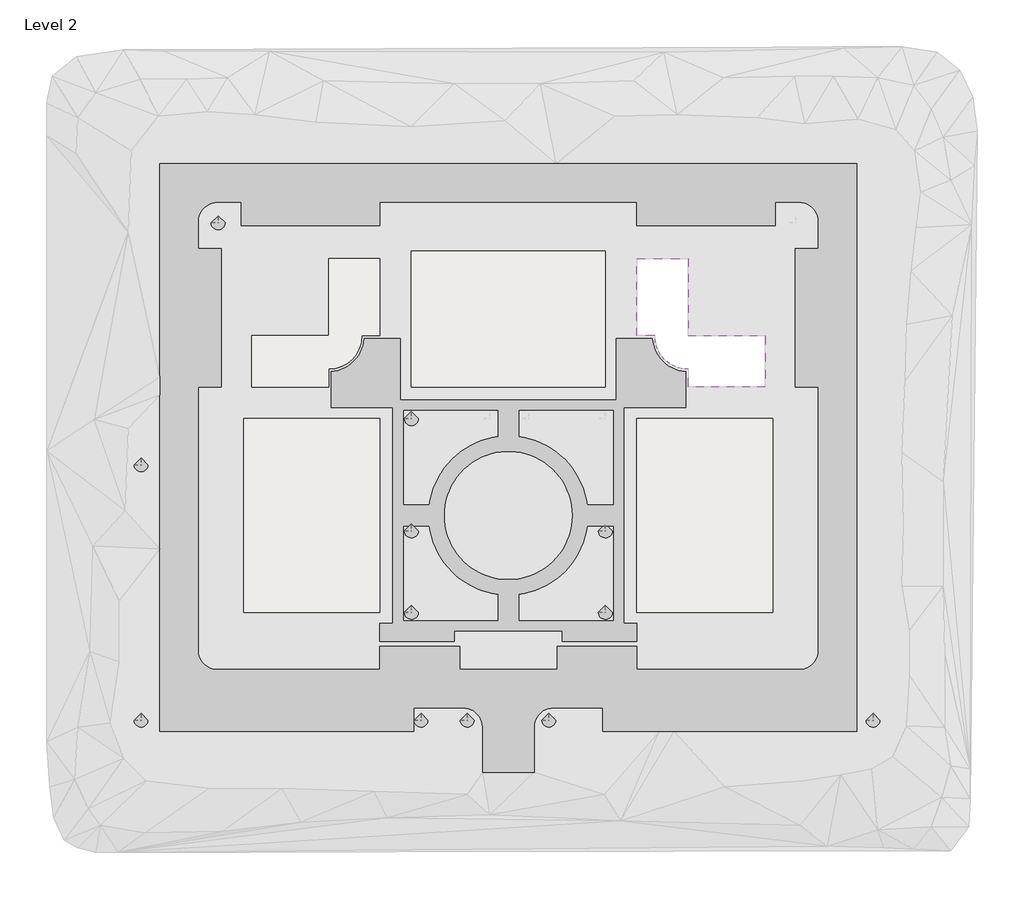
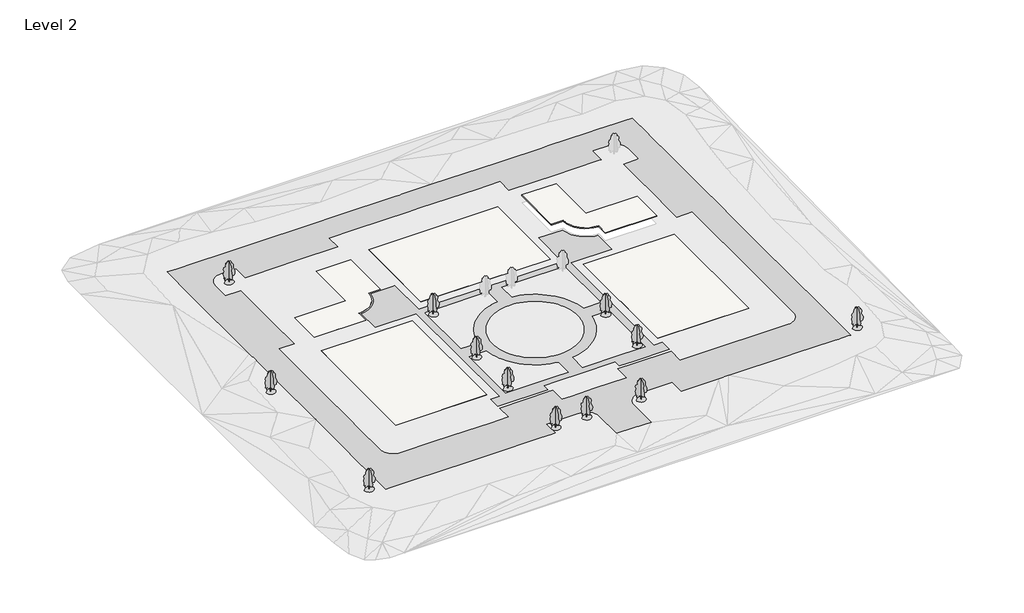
# One storey, part 1 of 2: 12 geographic elements, 5 slabs, 2 proxies.
"""IFC4 building model written with IfcOpenShell, lengths in millimetres."""

from ifc_helpers import new_model, si_unit, point, frame, frame_2d, origin, place, context, project, spatial, polyline, circle_curve, trimmed, segment, composite_curve, outline, extrude, triangles, transform, mapped, element, save
from components import rpc_tree_deciduous_red_ash_25_14781bec

model = new_model("IFC4")

# Units and contexts
model_context = context("Model", 3, world=origin())
ifc_project = project(units=[si_unit("LENGTHUNIT", "METRE", prefix="MILLI")], contexts=[model_context])

# Site, building, storey
site = spatial("IfcSite", under=ifc_project)
building = spatial("IfcBuilding", under=site)
storey = spatial("IfcBuildingStorey", under=building, Name="Level 2", Elevation=3047.9999999)

# Proxies
placement = place(None, origin())
element("IfcBuildingElementProxy", 1, Name="Building Element Proxy", at=placement, inside=storey, context=model_context, shape_type="Tessellation", body=[
    triangles([(-96458.3541504, -141259.5265137, 3048.0), (-96458.3541504, -151927.5265137, 3048.0), (-90362.3541504, -151927.5265137, 3048.0), (-84266.3541504, -151927.5265137, 3048.0), (-84266.3541504, -141259.5265137, 3048.0), (-84219.8174561, -140608.8592529, 3048.0), (-84081.1561523, -139971.4376953, 3048.0), (-83853.1979736, -139360.2470947, 3048.0), (-83540.5658936, -138787.7145996, 3048.0), (-83149.640918, -138265.4953125, 3048.0), (-82688.3853516, -137804.2304443, 3048.0), (-82166.1660645, -137413.3147705, 3048.0), (-81593.6335693, -137100.6826904, 3048.0), (-80982.4429688, -136872.7245117, 3048.0), (-80345.0214111, -136734.0539063, 3048.0), (-79694.3541504, -136687.5265137, 3048.0), (-70630.3399658, -136687.5265137, 3048.0), (-67959.5588013, -136687.5265137, 3048.0), (-67959.5588013, -142173.9265137, 3048.0), (-54593.6723145, -142173.9265137, 3048.0), (-50988.4086548, -142173.9265137, 3048.0), (-30015.5818359, -142173.9265137, 3048.0), (-27380.2333923, -142173.9265137, 3048.0), (-14368.7717834, -142173.9265137, 3048.0), (-12021.3371613, -142173.9265137, 3048.0), (-8520.228772, -142173.9265137, 3048.0), (-7609.1582199, -142173.9265137, 3048.0), (-7609.1582199, -141262.8472412, 3048.0), (-7609.1582199, -135897.4445068, 3048.0), (-7609.1582199, -128757.108252, 3048.0), (-7609.1582199, -119744.5513916, 3048.0), (-7609.1582199, -109311.1696289, 3048.0), (-7609.1582199, -103111.0178467, 3048.0), (-7609.1582199, -88141.7269043, 3048.0), (-7609.1582199, -67102.3320557, 3048.0), (-7609.1582199, -63543.7213623, 3048.0), (-7609.1582199, -48692.6557617, 3048.0), (-7609.1582199, -45786.2285156, 3048.0), (-7609.1582199, -34925.2565735, 3048.0), (-7609.1582199, -29394.9894836, 3048.0), (-7609.1582199, -20175.2708496, 3048.0), (-7609.1582199, -15160.5374084, 3048.0), (-7609.1582199, -9469.011557, 3048.0), (-7609.1582199, -7452.3218628, 3048.0), (-9769.8966797, -7452.3218628, 3048.0), (-13137.2725342, -7452.3218628, 3048.0), (-20332.1054626, -7452.3218628, 3048.0), (-23395.2487244, -7452.3218628, 3048.0), (-37615.0575073, -7452.3218628, 3048.0), (-40375.0099731, -7452.3218628, 3048.0), (-52788.1732178, -7452.3218628, 3048.0), (-55510.2210205, -7452.3218628, 3048.0), (-79028.6831543, -7452.3218628, 3048.0), (-89744.5965088, -7452.3218628, 3048.0), (-90362.3541504, -7452.3218628, 3048.0), (-91818.4420166, -7452.3218628, 3048.0), (-112747.4808105, -7452.3218628, 3048.0), (-121728.1977539, -7452.3218628, 3048.0), (-142112.3953857, -7452.3218628, 3048.0), (-152868.4644287, -7452.3218628, 3048.0), (-163060.4655762, -7452.3218628, 3048.0), (-169916.8098633, -7452.3218628, 3048.0), (-173115.5541504, -7452.3218628, 3048.0), (-173115.5541504, -12340.9792786, 3048.0), (-173115.5541504, -16797.6432953, 3048.0), (-173115.5541504, -19343.470459, 3048.0), (-173115.5541504, -58140.023291, 3048.0), (-173115.5541504, -62355.6543457, 3048.0), (-173115.5541504, -78335.3859375, 3048.0), (-173115.5541504, -96485.831543, 3048.0), (-173115.5541504, -98940.6863525, 3048.0), (-173115.5541504, -118406.8004883, 3048.0), (-173115.5541504, -122301.5302002, 3048.0), (-173115.5541504, -133177.6942383, 3048.0), (-173115.5541504, -139265.5924072, 3048.0), (-173115.5541504, -142173.9265137, 3048.0), (-171062.6189941, -142173.9265137, 3048.0), (-161579.2164551, -142173.9265137, 3048.0), (-155924.3616211, -142173.9265137, 3048.0), (-141364.1619873, -142173.9265137, 3048.0), (-134914.7603027, -142173.9265137, 3048.0), (-118098.4844238, -142173.9265137, 3048.0), (-113948.1331055, -142173.9265137, 3048.0), (-112765.1541504, -142173.9265137, 3048.0), (-112765.1541504, -136687.5265137, 3048.0), (-101809.9809814, -136687.5265137, 3048.0), (-101030.3541504, -136687.5265137, 3048.0), (-100379.6961914, -136734.0539063, 3048.0), (-99742.2746338, -136872.7245117, 3048.0), (-99131.0840332, -137100.6826904, 3048.0), (-98978.0329102, -137184.2496826, 3048.0), (-98558.5515381, -137413.3147705, 3048.0), (-98036.332251, -137804.2304443, 3048.0), (-97575.0673828, -138265.4953125, 3048.0), (-97184.1424072, -138787.7145996, 3048.0), (-96871.5196289, -139360.2470947, 3048.0), (-96643.5521484, -139971.4376953, 3048.0), (-96504.8908447, -140608.8592529, 3048.0), (-120842.3541504, -16596.3218628, 3048.0), (-111973.5931641, -16596.3218628, 3048.0), (-92323.0716797, -16596.3218628, 3048.0), (-88392.1767334, -16596.3218628, 3048.0), (-68080.4816528, -16596.3218628, 3048.0), (-59882.3588013, -16596.3218628, 3048.0), (-59882.3588013, -22082.7218628, 3048.0), (-43016.1185303, -22082.7218628, 3048.0), (-36760.488739, -22082.7218628, 3048.0), (-27869.6965393, -22082.7218628, 3048.0), (-26963.9588013, -22082.7218628, 3048.0), (-26963.9588013, -17204.3033569, 3048.0), (-26963.9588013, -16596.3218628, 3048.0), (-21325.1588013, -16596.3218628, 3048.0), (-20674.493866, -16642.8585571, 3048.0), (-20037.0769592, -16781.5198608, 3048.0), (-19425.880545, -17009.4838531, 3048.0), (-18853.3480499, -17322.1112823, 3048.0), (-18331.1345764, -17713.0350952, 3048.0), (-17869.870871, -18174.2988007, 3048.0), (-17478.9470581, -18696.5122742, 3048.0), (-17166.3207916, -19269.0447693, 3048.0), (-16938.3556366, -19880.2400208, 3048.0), (-16799.6943329, -20517.6592529, 3048.0), (-16753.1576385, -21168.3218628, 3048.0), (-16753.1576385, -26553.1513184, 3048.0), (-16753.1576385, -27569.1218628, 3048.0), (-22239.5588013, -27569.1218628, 3048.0), (-22239.5588013, -28669.615155, 3048.0), (-22239.5588013, -35337.7267456, 3048.0), (-22239.5588013, -46411.753125, 3048.0), (-22239.5588013, -54882.9383789, 3048.0), (-22239.5588013, -60487.5218628, 3048.0), (-16753.1576385, -60487.5218628, 3048.0), (-16753.1576385, -98657.3269043, 3048.0), (-16753.1576385, -111345.1664063, 3048.0), (-16753.1576385, -122722.3696289, 3048.0), (-16753.1576385, -122971.5265137, 3048.0), (-16799.6943329, -123622.1844727, 3048.0), (-16938.3556366, -124259.6060303, 3048.0), (-17166.3207916, -124870.7966309, 3048.0), (-17478.9470581, -125443.329126, 3048.0), (-17869.870871, -125965.5484131, 3048.0), (-18331.1345764, -126426.8132813, 3048.0), (-18853.3480499, -126817.7289551, 3048.0), (-19425.880545, -127130.3610352, 3048.0), (-19872.0754028, -127296.7787842, 3048.0), (-20037.0769592, -127358.3192139, 3048.0), (-20674.493866, -127496.9898193, 3048.0), (-21325.1588013, -127543.5265137, 3048.0), (-34741.3910522, -127543.5265137, 3048.0), (-41871.5883911, -127543.5265137, 3048.0), (-59882.3588013, -127543.5265137, 3048.0), (-59882.3588013, -122057.1265137, 3048.0), (-72794.2171875, -122057.1265137, 3048.0), (-78779.9541504, -122057.1265137, 3048.0), (-78779.9541504, -127543.5265137, 3048.0), (-90362.3541504, -127543.5265137, 3048.0), (-98445.9909668, -127543.5265137, 3048.0), (-101944.7541504, -127543.5265137, 3048.0), (-101944.7541504, -122057.1265137, 3048.0), (-103048.1844727, -122057.1265137, 3048.0), (-120842.3541504, -122057.1265137, 3048.0), (-120842.3541504, -127543.5265137, 3048.0), (-127508.0124023, -127543.5265137, 3048.0), (-135716.2462646, -127543.5265137, 3048.0), (-147842.1479736, -127543.5265137, 3048.0), (-159399.5541504, -127543.5265137, 3048.0), (-160050.2307129, -127496.9898193, 3048.0), (-160687.6429688, -127358.3192139, 3048.0), (-161298.8428711, -127130.3610352, 3048.0), (-161871.3660645, -126817.7289551, 3048.0), (-162393.5853516, -126426.8132813, 3048.0), (-162854.840918, -125965.5484131, 3048.0), (-163245.7751953, -125443.329126, 3048.0), (-163558.3886719, -124870.7966309, 3048.0), (-163786.3561523, -124259.6060303, 3048.0), (-163925.0267578, -123622.1844727, 3048.0), (-163971.5541504, -122971.5265137, 3048.0), (-163971.5541504, -109289.2825928, 3048.0), (-163971.5541504, -104079.330835, 3048.0), (-163971.5541504, -88201.2767578, 3048.0), (-163971.5541504, -60487.5218628, 3048.0), (-158485.1541504, -60487.5218628, 3048.0), (-158485.1541504, -46724.2270752, 3048.0), (-158485.1541504, -34220.483313, 3048.0), (-158485.1541504, -27569.1218628, 3048.0), (-163971.5541504, -27569.1218628, 3048.0), (-163971.5541504, -21168.3218628, 3048.0), (-163925.0267578, -20517.6592529, 3048.0), (-163786.3561523, -19880.2400208, 3048.0), (-163558.3886719, -19269.0447693, 3048.0), (-163245.7751953, -18696.5122742, 3048.0), (-162854.840918, -18174.2988007, 3048.0), (-162393.5853516, -17713.0350952, 3048.0), (-161871.3660645, -17322.1112823, 3048.0), (-161298.8428711, -17009.4838531, 3048.0), (-160687.6429688, -16781.5198608, 3048.0), (-160050.2307129, -16642.8585571, 3048.0), (-159399.5541504, -16596.3218628, 3048.0), (-153760.7541504, -16596.3218628, 3048.0), (-153760.7541504, -22082.7218628, 3048.0), (-151061.086377, -22082.7218628, 3048.0), (-135421.6781982, -22082.7218628, 3048.0), (-120842.3541504, -22082.7218628, 3048.0)], [[75, 76, 77], [75, 77, 78], [78, 74, 75], [169, 74, 78], [167, 78, 166], [78, 79, 166], [165, 79, 80], [164, 80, 81], [164, 165, 80], [163, 164, 81], [163, 82, 162], [79, 165, 166], [174, 175, 73], [174, 73, 74], [73, 176, 177], [176, 73, 175], [72, 73, 177], [74, 173, 174], [167, 168, 78], [173, 74, 172], [171, 74, 170], [74, 171, 172], [168, 169, 78], [74, 169, 170], [163, 81, 82], [85, 83, 84], [85, 82, 83], [9, 156, 95], [156, 94, 95], [1, 2, 3], [5, 3, 4], [1, 3, 5], [6, 98, 1], [7, 97, 98], [97, 8, 96], [95, 96, 9], [85, 86, 158], [162, 160, 161], [158, 86, 87], [158, 87, 88], [158, 160, 162], [88, 157, 158], [162, 85, 158], [92, 93, 157], [91, 92, 157], [89, 90, 157], [157, 90, 91], [93, 156, 157], [89, 157, 88], [93, 94, 156], [85, 162, 82], [71, 72, 178], [70, 71, 179], [68, 69, 181], [67, 68, 181], [70, 180, 69], [179, 180, 70], [69, 180, 181], [67, 186, 66], [186, 67, 183], [183, 67, 181], [178, 179, 71], [177, 178, 72], [66, 186, 187], [189, 65, 66], [188, 66, 187], [64, 65, 192], [63, 64, 62], [193, 62, 64], [188, 189, 66], [192, 65, 191], [191, 65, 190], [62, 193, 61], [64, 192, 193], [193, 194, 61], [61, 194, 195], [190, 65, 189], [186, 184, 185], [198, 61, 197], [197, 61, 196], [186, 183, 184], [159, 160, 158], [59, 201, 202], [199, 200, 201], [181, 182, 183], [99, 202, 203], [99, 58, 202], [201, 59, 199], [198, 199, 60], [59, 60, 199], [59, 202, 58], [99, 57, 58], [60, 61, 198], [56, 100, 101], [55, 101, 102], [56, 57, 100], [54, 55, 102], [56, 101, 55], [102, 53, 54], [100, 57, 99], [196, 61, 195], [6, 1, 5], [97, 7, 8], [156, 10, 11], [10, 156, 9], [9, 96, 8], [20, 18, 19], [21, 151, 20], [13, 156, 12], [21, 22, 150], [12, 156, 11], [14, 15, 155], [13, 14, 155], [155, 16, 17], [154, 155, 153], [155, 15, 16], [156, 13, 155], [153, 17, 18], [150, 22, 149], [21, 150, 151], [152, 153, 151], [151, 18, 20], [153, 18, 151], [17, 153, 155], [22, 23, 149], [148, 24, 147], [146, 147, 24], [24, 145, 146], [24, 144, 145], [148, 23, 24], [28, 25, 26], [28, 26, 27], [29, 144, 24], [143, 144, 29], [29, 24, 25], [25, 28, 29], [142, 29, 30], [143, 29, 142], [142, 30, 141], [140, 30, 139], [139, 30, 138], [30, 140, 141], [136, 137, 31], [135, 136, 31], [33, 134, 32], [31, 32, 134], [134, 135, 31], [138, 30, 137], [137, 30, 31], [148, 149, 23], [134, 33, 133], [50, 106, 107], [104, 105, 106], [108, 109, 110], [108, 110, 107], [110, 111, 107], [128, 129, 38], [125, 127, 128], [127, 125, 126], [37, 129, 130], [52, 53, 103], [52, 103, 104], [51, 52, 104], [51, 104, 106], [50, 51, 106], [107, 111, 49], [113, 114, 47], [49, 111, 48], [112, 47, 48], [47, 112, 113], [111, 112, 48], [114, 115, 47], [49, 50, 107], [130, 131, 132], [53, 102, 103], [39, 128, 38], [124, 125, 40], [130, 132, 37], [124, 41, 123], [41, 122, 123], [132, 34, 35], [35, 36, 132], [38, 129, 37], [39, 40, 125], [39, 125, 128], [36, 37, 132], [133, 33, 34], [40, 41, 124], [119, 120, 42], [118, 119, 42], [116, 117, 46], [115, 116, 46], [118, 46, 117], [41, 42, 120], [41, 121, 122], [42, 46, 118], [45, 46, 43], [43, 44, 45], [46, 42, 43], [120, 121, 41], [115, 46, 47], [133, 34, 132], [7, 98, 6]], closed=False),
])
element("IfcBuildingElementProxy", 2, Name="Building Element Proxy", at=placement, inside=storey, context=model_context, shape_type="Tessellation", body=[
    triangles([(-115965.5541504, -63535.5218628, 3048.0), (-115965.5541504, -48905.1218628, 3048.0), (-124521.7574707, -48905.1218628, 3048.0), (-124628.057959, -49768.622644, 3048.0), (-124821.7112549, -50616.8173828, 3048.0), (-125100.7174805, -51440.8880127, 3048.0), (-125462.1744873, -52232.2676147, 3048.0), (-125902.3150635, -52982.7380859, 3048.0), (-126416.5813477, -53684.4999023, 3048.0), (-126999.6248291, -54330.255835, 3048.0), (-127645.3807617, -54913.2946655, 3048.0), (-128347.1425781, -55427.5609497, 3048.0), (-129097.6083984, -55867.7061768, 3048.0), (-129888.9926514, -56229.1631836, 3048.0), (-130713.0632813, -56508.1694092, 3048.0), (-131561.2533691, -56701.827356, 3048.0), (-132424.7541504, -56808.1231934, 3048.0), (-132424.7541504, -65364.3218628, 3048.0), (-117794.3541504, -65364.3218628, 3048.0), (-117794.3541504, -116570.7265137, 3048.0), (-120842.3541504, -116570.7265137, 3048.0), (-120842.3541504, -120837.9265137, 3048.0), (-103163.9541504, -120837.9265137, 3048.0), (-103163.9541504, -120689.163501, 3048.0), (-103163.9541504, -118399.5265137, 3048.0), (-97941.352002, -118399.5265137, 3048.0), (-90362.3541504, -118399.5265137, 3048.0), (-77560.7588013, -118399.5265137, 3048.0), (-77560.7588013, -120837.9265137, 3048.0), (-72974.5410645, -120837.9265137, 3048.0), (-59882.3588013, -120837.9265137, 3048.0), (-59882.3588013, -116570.7265137, 3048.0), (-62930.3588013, -116570.7265137, 3048.0), (-62930.3588013, -65364.3218628, 3048.0), (-48299.9588013, -65364.3218628, 3048.0), (-48299.9588013, -56808.1231934, 3048.0), (-49163.4595825, -56701.827356, 3048.0), (-50011.6543213, -56508.1694092, 3048.0), (-50835.7249512, -56229.1631836, 3048.0), (-51627.1045532, -55867.7061768, 3048.0), (-52377.5750244, -55427.5609497, 3048.0), (-53079.3368408, -54913.2946655, 3048.0), (-53725.0881226, -54330.255835, 3048.0), (-54308.131604, -53684.4999023, 3048.0), (-54822.3978882, -52982.7380859, 3048.0), (-55262.5431152, -52232.2676147, 3048.0), (-55624.0001221, -51440.8880127, 3048.0), (-55903.0063477, -50616.8173828, 3048.0), (-56096.6642944, -49768.622644, 3048.0), (-56202.9601318, -48905.1218628, 3048.0), (-64759.1588013, -48905.1218628, 3048.0), (-64759.1588013, -63535.5218628, 3048.0), (-81449.735376, -63535.5218628, 3048.0), (-94913.5368164, -63535.5218628, 3048.0), (-108001.017041, -63535.5218628, 3048.0), (-92800.7541504, -65973.9218628, 3048.0), (-92800.7541504, -72227.8982666, 3048.0), (-94158.9968262, -72455.2332275, 3048.0), (-95422.7708496, -72762.7958496, 3048.0), (-95497.073291, -72780.8784668, 3048.0), (-96807.877002, -73203.1038574, 3048.0), (-98084.4595459, -73719.6676758, 3048.0), (-99320.0213379, -74327.8259033, 3048.0), (-100508.0232422, -75024.3508301, 3048.0), (-101642.1493652, -75805.5403564, 3048.0), (-102716.3628662, -76667.2505493, 3048.0), (-103724.9803711, -77604.900293, 3048.0), (-104662.6254639, -78613.5177979, 3048.0), (-105524.3403076, -79687.7312988, 3048.0), (-106305.529834, -80821.8574219, 3048.0), (-106508.6988281, -81168.3851074, 3048.0), (-107002.0547607, -82009.8500244, 3048.0), (-107610.2129883, -83245.4211182, 3048.0), (-108126.7768066, -84522.0036621, 3048.0), (-108549.0021973, -85832.807373, 3048.0), (-108874.6474365, -87170.8838379, 3048.0), (-109101.9823975, -88529.1265137, 3048.0), (-115355.9541504, -88529.1265137, 3048.0), (-115355.9541504, -65973.9218628, 3048.0), (-107794.6482422, -65973.9218628, 3048.0), (-95048.1053467, -65973.9218628, 3048.0), (-92800.7541504, -115961.1265137, 3048.0), (-97806.7834717, -115961.1265137, 3048.0), (-103564.1064697, -115961.1265137, 3048.0), (-115355.9541504, -115961.1265137, 3048.0), (-115355.9541504, -93405.9265137, 3048.0), (-109101.9823975, -93405.9265137, 3048.0), (-108874.6474365, -94764.1598877, 3048.0), (-108549.0021973, -96102.2363525, 3048.0), (-108126.7768066, -97413.0400635, 3048.0), (-107610.2129883, -98689.6226074, 3048.0), (-107002.0547607, -99925.1937012, 3048.0), (-106305.529834, -101113.1863037, 3048.0), (-105524.3403076, -102247.3124268, 3048.0), (-104662.6254639, -103321.5259277, 3048.0), (-104630.9436768, -103355.6168701, 3048.0), (-103724.9803711, -104330.1434326, 3048.0), (-102716.3628662, -105267.7978271, 3048.0), (-101642.1493652, -106129.5033691, 3048.0), (-100508.0232422, -106910.6928955, 3048.0), (-99320.0213379, -107607.2178223, 3048.0), (-98084.4595459, -108215.3760498, 3048.0), (-97394.7156006, -108494.475293, 3048.0), (-96807.877002, -108731.9398682, 3048.0), (-95497.073291, -109154.1652588, 3048.0), (-94158.9968262, -109479.810498, 3048.0), (-92800.7541504, -109707.145459, 3048.0), (-105602.3541504, -90967.5265137, 3048.0), (-105552.9432129, -89741.2106689, 3048.0), (-105405.0080566, -88522.8571289, 3048.0), (-105159.5067627, -87320.3537842, 3048.0), (-104818.0578369, -86141.5048096, 3048.0), (-104382.8471924, -84993.9469482, 3048.0), (-103856.7118652, -83885.14021, 3048.0), (-103243.0562988, -82822.2655518, 3048.0), (-102545.8616455, -81812.2062744, 3048.0), (-101769.6578613, -80861.5294189, 3048.0), (-100919.4771973, -79976.392749, 3048.0), (-100000.8262939, -79162.544751, 3048.0), (-99019.6675781, -78425.2502197, 3048.0), (-97982.3541504, -77769.2949097, 3048.0), (-96895.6297852, -77198.9390259, 3048.0), (-95766.5359131, -76717.8753662, 3048.0), (-95638.683252, -76675.1895996, 3048.0), (-94602.3930176, -76329.2246704, 3048.0), (-93410.754126, -76035.5123657, 3048.0), (-92199.3396973, -75838.6406616, 3048.0), (-90976.0097168, -75739.879248, 3048.0), (-89748.7078857, -75739.879248, 3048.0), (-88525.3779053, -75838.6406616, 3048.0), (-87313.9634766, -76035.5123657, 3048.0), (-86122.324585, -76329.2246704, 3048.0), (-84958.1816895, -76717.8753662, 3048.0), (-83829.0878174, -77198.9390259, 3048.0), (-82742.3541504, -77769.2949097, 3048.0), (-81705.0500244, -78425.2502197, 3048.0), (-80723.8913086, -79162.544751, 3048.0), (-79805.2404053, -79976.392749, 3048.0), (-78955.0504395, -80861.5294189, 3048.0), (-78872.1438721, -80963.076709, 3048.0), (-78178.8466553, -81812.2062744, 3048.0), (-77481.6613037, -82822.2655518, 3048.0), (-76868.0103882, -83885.14021, 3048.0), (-76341.8704102, -84993.9469482, 3048.0), (-75906.6644165, -86141.5048096, 3048.0), (-75565.206189, -87320.3537842, 3048.0), (-75319.7141968, -88522.8571289, 3048.0), (-75171.7743896, -89741.2106689, 3048.0), (-75122.3588013, -90967.5265137, 3048.0), (-75171.7743896, -92193.8330566, 3048.0), (-75319.7141968, -93412.1865967, 3048.0), (-75565.206189, -94614.6899414, 3048.0), (-75906.6644165, -95793.538916, 3048.0), (-76341.8704102, -96941.0967773, 3048.0), (-76469.2486816, -97209.5362061, 3048.0), (-76868.0103882, -98049.9035156, 3048.0), (-77481.6613037, -99112.7781738, 3048.0), (-78178.8466553, -100122.8374512, 3048.0), (-78955.0504395, -101073.5143066, 3048.0), (-79805.2404053, -101958.6509766, 3048.0), (-80723.8913086, -102772.4989746, 3048.0), (-81705.0500244, -103509.7935059, 3048.0), (-82742.3541504, -104165.7534668, 3048.0), (-83829.0878174, -104736.1093506, 3048.0), (-84958.1816895, -105217.1683594, 3048.0), (-86122.324585, -105605.8144043, 3048.0), (-87313.9634766, -105899.5360107, 3048.0), (-88525.3779053, -106096.4077148, 3048.0), (-89748.7078857, -106195.1644775, 3048.0), (-90976.0097168, -106195.1644775, 3048.0), (-92199.3396973, -106096.4077148, 3048.0), (-93410.754126, -105899.5360107, 3048.0), (-94602.3930176, -105605.8144043, 3048.0), (-95766.5359131, -105217.1683594, 3048.0), (-96895.6297852, -104736.1093506, 3048.0), (-97179.0915527, -104587.3370361, 3048.0), (-97982.3541504, -104165.7534668, 3048.0), (-99019.6675781, -103509.7935059, 3048.0), (-100000.8262939, -102772.4989746, 3048.0), (-100919.4771973, -101958.6509766, 3048.0), (-101769.6578613, -101073.5143066, 3048.0), (-102545.8616455, -100122.8374512, 3048.0), (-103243.0562988, -99112.7781738, 3048.0), (-103856.7118652, -98049.9035156, 3048.0), (-104382.8471924, -96941.0967773, 3048.0), (-104818.0578369, -95793.538916, 3048.0), (-105159.5067627, -94614.6899414, 3048.0), (-105405.0080566, -93412.1865967, 3048.0), (-105552.9432129, -92193.8330566, 3048.0), (-87923.9541504, -65973.9218628, 3048.0), (-81089.0876221, -65973.9218628, 3048.0), (-65368.7588013, -65973.9218628, 3048.0), (-65368.7588013, -88529.1265137, 3048.0), (-71622.7352051, -88529.1265137, 3048.0), (-71850.070166, -87170.8838379, 3048.0), (-72175.7154053, -85832.807373, 3048.0), (-72597.9407959, -84522.0036621, 3048.0), (-73114.5046143, -83245.4211182, 3048.0), (-73722.6628418, -82009.8500244, 3048.0), (-74419.1877686, -80821.8574219, 3048.0), (-75200.3772949, -79687.7312988, 3048.0), (-76062.0874878, -78613.5177979, 3048.0), (-76999.7372314, -77604.900293, 3048.0), (-78008.3500854, -76667.2505493, 3048.0), (-79082.5682373, -75805.5403564, 3048.0), (-79697.6190674, -75381.8917969, 3048.0), (-80216.6943604, -75024.3508301, 3048.0), (-81404.6869629, -74327.8259033, 3048.0), (-82640.2580566, -73719.6676758, 3048.0), (-83916.8406006, -73203.1038574, 3048.0), (-85227.6443115, -72780.8784668, 3048.0), (-86565.7207764, -72455.2332275, 3048.0), (-87923.9541504, -72227.8982666, 3048.0), (-87923.9541504, -115961.1265137, 3048.0), (-87923.9541504, -109707.145459, 3048.0), (-86565.7207764, -109479.810498, 3048.0), (-85227.6443115, -109154.1652588, 3048.0), (-83916.8406006, -108731.9398682, 3048.0), (-82640.2580566, -108215.3760498, 3048.0), (-81404.6869629, -107607.2178223, 3048.0), (-80216.6943604, -106910.6928955, 3048.0), (-79082.5682373, -106129.5033691, 3048.0), (-78008.3500854, -105267.7978271, 3048.0), (-76999.7372314, -104330.1434326, 3048.0), (-76062.0874878, -103321.5259277, 3048.0), (-75642.6107666, -102798.599707, 3048.0), (-75200.3772949, -102247.3124268, 3048.0), (-74419.1877686, -101113.1863037, 3048.0), (-73722.6628418, -99925.1937012, 3048.0), (-73114.5046143, -98689.6226074, 3048.0), (-72597.9407959, -97413.0400635, 3048.0), (-72175.7154053, -96102.2363525, 3048.0), (-71850.070166, -94764.1598877, 3048.0), (-71622.7352051, -93405.9265137, 3048.0), (-65368.7588013, -93405.9265137, 3048.0), (-65368.7588013, -115961.1265137, 3048.0), (-73695.8365723, -115961.1265137, 3048.0)], [[22, 20, 21], [20, 22, 85], [85, 86, 20], [19, 20, 86], [90, 91, 185], [184, 91, 92], [22, 23, 85], [181, 95, 96], [182, 94, 95], [183, 92, 93], [185, 91, 184], [183, 93, 94], [183, 184, 92], [96, 97, 181], [90, 185, 186], [188, 87, 88], [78, 87, 77], [87, 78, 86], [110, 76, 77], [108, 77, 87], [88, 89, 187], [188, 189, 87], [186, 187, 89], [188, 88, 187], [108, 109, 77], [110, 111, 76], [109, 110, 77], [189, 108, 87], [89, 90, 186], [76, 111, 75], [86, 78, 19], [84, 25, 83], [25, 84, 85], [25, 85, 24], [177, 100, 101], [102, 176, 101], [24, 85, 23], [26, 83, 25], [83, 26, 82], [171, 107, 170], [26, 27, 82], [174, 103, 104], [173, 104, 105], [106, 172, 105], [175, 102, 103], [107, 172, 106], [98, 99, 179], [179, 99, 178], [98, 179, 180], [183, 94, 182], [181, 97, 180], [95, 181, 182], [180, 97, 98], [175, 103, 174], [173, 105, 172], [104, 173, 174], [178, 99, 100], [178, 100, 177], [176, 177, 101], [176, 102, 175], [107, 171, 172], [107, 82, 215], [19, 78, 79], [113, 73, 74], [1, 79, 55], [16, 17, 18], [13, 18, 19], [1, 19, 79], [1, 10, 19], [72, 114, 71], [114, 72, 73], [54, 55, 80], [55, 79, 80], [115, 69, 70], [70, 71, 115], [112, 74, 75], [15, 16, 18], [14, 15, 18], [13, 19, 12], [11, 19, 10], [19, 11, 12], [14, 18, 13], [9, 1, 8], [6, 7, 2], [1, 7, 8], [4, 5, 2], [2, 3, 4], [5, 6, 2], [10, 1, 9], [7, 1, 2], [115, 71, 114], [114, 73, 113], [117, 67, 68], [116, 68, 69], [115, 116, 69], [117, 68, 116], [113, 74, 112], [117, 118, 67], [66, 118, 119], [67, 118, 66], [64, 120, 121], [62, 122, 123], [63, 121, 122], [65, 119, 120], [61, 123, 124], [120, 64, 65], [64, 121, 63], [63, 122, 62], [62, 123, 61], [61, 125, 60], [65, 66, 119], [59, 125, 126], [125, 59, 60], [58, 126, 57], [126, 58, 59], [54, 80, 81], [54, 81, 56], [213, 56, 57], [54, 56, 190], [57, 126, 127], [125, 61, 124], [75, 111, 112], [214, 215, 82], [169, 107, 215], [107, 169, 170], [167, 215, 216], [169, 215, 168], [217, 167, 216], [82, 27, 214], [214, 28, 237], [214, 27, 28], [219, 220, 164], [220, 221, 163], [219, 165, 218], [217, 218, 166], [222, 162, 221], [168, 215, 167], [167, 217, 166], [165, 219, 164], [163, 221, 162], [220, 163, 164], [218, 165, 166], [160, 161, 223], [223, 224, 160], [162, 222, 161], [160, 224, 159], [226, 158, 159], [229, 156, 157], [157, 158, 227], [224, 225, 159], [222, 223, 161], [28, 29, 30], [228, 157, 227], [227, 158, 226], [230, 154, 155], [230, 156, 229], [228, 229, 157], [155, 156, 230], [226, 159, 225], [236, 31, 33], [31, 236, 30], [31, 32, 33], [237, 30, 236], [230, 231, 154], [236, 33, 235], [28, 30, 237], [154, 231, 153], [152, 153, 232], [151, 152, 233], [146, 147, 195], [147, 148, 194], [151, 234, 150], [233, 234, 151], [234, 235, 193], [150, 234, 149], [194, 148, 149], [147, 194, 195], [194, 149, 234], [234, 193, 194], [33, 34, 235], [233, 152, 232], [153, 231, 232], [146, 195, 196], [207, 135, 136], [208, 134, 135], [210, 132, 133], [211, 131, 132], [133, 134, 209], [202, 203, 139], [202, 140, 141], [140, 202, 139], [137, 138, 204], [203, 204, 138], [138, 139, 203], [136, 137, 205], [141, 142, 201], [137, 204, 205], [129, 130, 213], [129, 213, 57], [56, 213, 190], [213, 130, 131], [212, 213, 131], [211, 212, 131], [128, 129, 57], [134, 208, 209], [207, 208, 135], [210, 133, 209], [132, 210, 211], [53, 190, 191], [191, 192, 53], [136, 206, 207], [136, 205, 206], [57, 127, 128], [198, 143, 144], [199, 143, 198], [141, 201, 202], [201, 142, 200], [200, 142, 199], [144, 145, 197], [143, 199, 142], [198, 144, 197], [145, 196, 197], [52, 53, 192], [43, 52, 34], [34, 52, 192], [34, 35, 40], [192, 193, 34], [36, 37, 35], [34, 193, 235], [145, 146, 196], [46, 47, 51], [46, 51, 52], [50, 51, 49], [48, 49, 51], [51, 47, 48], [52, 45, 46], [39, 40, 35], [37, 38, 35], [39, 35, 38], [45, 52, 44], [43, 34, 42], [52, 43, 44], [42, 34, 41], [34, 40, 41], [53, 54, 190]], closed=False),
])

# Geographic elements
rpc_tree_deciduous_red_ash_25_shape = rpc_tree_deciduous_red_ash_25_14781bec(model_context)
element("IfcGeographicElement", 3, ObjectType="RPC Tree - Deciduous : Red Ash - 25'", at=placement, inside=storey, context=model_context, shape_type="MappedRepresentation", body=[
    mapped(rpc_tree_deciduous_red_ash_25_shape, transform((-113374.758026, -67955.1218987, 3048.0), x_axis=(1.0, 0.0, 0.0), y_axis=(0.0, 1.0, 0.0), z_axis=(0.0, 0.0, 1.0))),
])
element("IfcGeographicElement", 4, ObjectType="RPC Tree - Deciduous : Red Ash - 25'", at=placement, inside=storey, context=model_context, shape_type="MappedRepresentation", body=[
    mapped(rpc_tree_deciduous_red_ash_25_shape, transform((-113374.758026, -94625.1218987, 3048.0), x_axis=(1.0, 0.0, 0.0), y_axis=(0.0, 1.0, 0.0), z_axis=(0.0, 0.0, 1.0))),
])
element("IfcGeographicElement", 5, ObjectType="RPC Tree - Deciduous : Red Ash - 25'", at=placement, inside=storey, context=model_context, shape_type="MappedRepresentation", body=[
    mapped(rpc_tree_deciduous_red_ash_25_shape, transform((-67349.958026, -94625.1218987, 3048.0), x_axis=(1.0, 0.0, 0.0), y_axis=(0.0, 1.0, 0.0), z_axis=(0.0, 0.0, 1.0))),
])
element("IfcGeographicElement", 6, ObjectType="RPC Tree - Deciduous : Red Ash - 25'", at=placement, inside=storey, context=model_context, shape_type="MappedRepresentation", body=[
    mapped(rpc_tree_deciduous_red_ash_25_shape, transform((-113374.758026, -113979.9218987, 3048.0), x_axis=(1.0, 0.0, 0.0), y_axis=(0.0, 1.0, 0.0), z_axis=(0.0, 0.0, 1.0))),
])
element("IfcGeographicElement", 7, ObjectType="RPC Tree - Deciduous : Red Ash - 25'", at=placement, inside=storey, context=model_context, shape_type="MappedRepresentation", body=[
    mapped(rpc_tree_deciduous_red_ash_25_shape, transform((-67349.958026, -113979.9218987, 3048.0), x_axis=(1.0, 0.0, 0.0), y_axis=(0.0, 1.0, 0.0), z_axis=(0.0, 0.0, 1.0))),
])
element("IfcGeographicElement", 8, ObjectType="RPC Tree - Deciduous : Red Ash - 25'", at=placement, inside=storey, context=model_context, shape_type="MappedRepresentation", body=[
    mapped(rpc_tree_deciduous_red_ash_25_shape, transform((-111088.758026, -139583.1218987, 3048.0), x_axis=(1.0, 0.0, 0.0), y_axis=(0.0, 1.0, 0.0), z_axis=(0.0, 0.0, 1.0))),
])
element("IfcGeographicElement", 9, ObjectType="RPC Tree - Deciduous : Red Ash - 25'", at=placement, inside=storey, context=model_context, shape_type="MappedRepresentation", body=[
    mapped(rpc_tree_deciduous_red_ash_25_shape, transform((-100115.958026, -139583.1218987, 3048.0), x_axis=(1.0, 0.0, 0.0), y_axis=(0.0, 1.0, 0.0), z_axis=(0.0, 0.0, 1.0))),
])
element("IfcGeographicElement", 10, ObjectType="RPC Tree - Deciduous : Red Ash - 25'", at=placement, inside=storey, context=model_context, shape_type="MappedRepresentation", body=[
    mapped(rpc_tree_deciduous_red_ash_25_shape, transform((-80761.158026, -139583.1218987, 3048.0), x_axis=(1.0, 0.0, 0.0), y_axis=(0.0, 1.0, 0.0), z_axis=(0.0, 0.0, 1.0))),
])
element("IfcGeographicElement", 11, ObjectType="RPC Tree - Deciduous : Red Ash - 25'", at=placement, inside=storey, context=model_context, shape_type="MappedRepresentation", body=[
    mapped(rpc_tree_deciduous_red_ash_25_shape, transform((-177535.158026, -139583.1218987, 3048.0), x_axis=(1.0, 0.0, 0.0), y_axis=(0.0, 1.0, 0.0), z_axis=(0.0, 0.0, 1.0))),
])
element("IfcGeographicElement", 12, ObjectType="RPC Tree - Deciduous : Red Ash - 25'", at=placement, inside=storey, context=model_context, shape_type="MappedRepresentation", body=[
    mapped(rpc_tree_deciduous_red_ash_25_shape, transform((-177535.158026, -78927.9218987, 3048.0), x_axis=(1.0, 0.0, 0.0), y_axis=(0.0, 1.0, 0.0), z_axis=(0.0, 0.0, 1.0))),
])
element("IfcGeographicElement", 13, ObjectType="RPC Tree - Deciduous : Red Ash - 25'", at=placement, inside=storey, context=model_context, shape_type="MappedRepresentation", body=[
    mapped(rpc_tree_deciduous_red_ash_25_shape, transform((-159247.158026, -21473.1218987, 3048.0), x_axis=(1.0, 0.0, 0.0), y_axis=(0.0, 1.0, 0.0), z_axis=(0.0, 0.0, 1.0))),
])
element("IfcGeographicElement", 14, ObjectType="RPC Tree - Deciduous : Red Ash - 25'", at=placement, inside=storey, context=model_context, shape_type="MappedRepresentation", body=[
    mapped(rpc_tree_deciduous_red_ash_25_shape, transform((-3799.158026, -139583.1218987, 3048.0), x_axis=(1.0, 0.0, 0.0), y_axis=(0.0, 1.0, 0.0), z_axis=(0.0, 0.0, 1.0))),
])

# Slabs
element("IfcSlab", 15, ObjectType="Pad 1", at=placement, inside=storey, context=model_context, shape_type="SweptSolid", body=[
    extrude(outline(polyline([(-153151.158026, -67955.1218987), (-120842.358026, -67955.1218987), (-120842.358026, -113979.9218987), (-153151.158026, -113979.9218987), (-153151.158026, -67955.1218987)])), frame((0.0, 0.0, 2743.2), z_axis=(0.0, 0.0, 1.0), x_axis=(1.0, 0.0, 0.0)), (0.0, 0.0, 1.0), 304.8),
])
element("IfcSlab", 16, ObjectType="Pad 1", at=placement, inside=storey, context=model_context, shape_type="SweptSolid", body=[
    extrude(outline(polyline([(-67349.958026, -28178.7218987), (-67349.958026, -60487.5218987), (-113374.758026, -60487.5218987), (-113374.758026, -28178.7218987), (-67349.958026, -28178.7218987)])), frame((0.0, 0.0, 2743.2), z_axis=(0.0, 0.0, 1.0), x_axis=(1.0, 0.0, 0.0)), (0.0, 0.0, 1.0), 304.8),
])
element("IfcSlab", 17, ObjectType="Pad 1", at=placement, inside=storey, context=model_context, shape_type="SweptSolid", body=[
    extrude(outline(polyline([(-27573.558026, -113979.9218987), (-59882.358026, -113979.9218987), (-59882.358026, -67955.1218987), (-27573.558026, -67955.1218987), (-27573.558026, -113979.9218987)])), frame((0.0, 0.0, 2743.2), z_axis=(0.0, 0.0, 1.0), x_axis=(1.0, 0.0, 0.0)), (0.0, 0.0, 1.0), 304.8),
])
element("IfcSlab", 18, ObjectType="Pad 1", at=placement, inside=storey, context=model_context, shape_type="SweptSolid", body=[
    extrude(outline(composite_curve([segment(polyline([(-120842.358026, -30007.5218987), (-120842.358026, -48295.5218987), (-125109.558026, -48295.5218987)]), True, "CONTINUOUS"), segment(trimmed(circle_curve(frame_2d((-133034.358026, -48295.5218987)), 7924.8), [point((-125109.558026, -48295.5218987))], [point((-133034.358026, -56220.3218987))], False, "CARTESIAN"), True, "CONTINUOUS"), segment(polyline([(-133034.358026, -56220.3218987), (-133034.358026, -60487.5218987), (-151322.358026, -60487.5218987), (-151322.358026, -48295.5218987), (-133034.358026, -48295.5218987), (-133034.358026, -30007.5218987), (-120842.358026, -30007.5218987)]), True, "CONTINUOUS")], self_intersect=False)), frame((0.0, 0.0, 2743.2), z_axis=(0.0, 0.0, 1.0), x_axis=(1.0, 0.0, 0.0)), (0.0, 0.0, 1.0), 304.8),
])
element("IfcSlab", 19, ObjectType="Pad 1", at=placement, inside=storey, context=model_context, shape_type="SweptSolid", body=[
    extrude(outline(composite_curve([segment(polyline([(-59882.358026, -30007.5218987), (-47690.358026, -30007.5218987), (-47690.358026, -48295.5218987), (-29402.358026, -48295.5218987), (-29402.358026, -60487.5218987), (-47690.358026, -60487.5218987), (-47690.358026, -56220.3218987)]), True, "CONTINUOUS"), segment(trimmed(circle_curve(frame_2d((-47690.358026, -48295.5218987)), 7924.8), [point((-47690.358026, -56220.3218987))], [point((-55615.158026, -48295.5218987))], False, "CARTESIAN"), True, "CONTINUOUS"), segment(polyline([(-55615.158026, -48295.5218987), (-59882.358026, -48295.5218987), (-59882.358026, -30007.5218987)]), True, "CONTINUOUS")], self_intersect=False)), frame((0.0, 0.0, 5791.1999999), z_axis=(0.0, 0.0, 1.0), x_axis=(1.0, 0.0, 0.0)), (0.0, 0.0, 1.0), 304.8),
])

save(model, "model.ifc")
